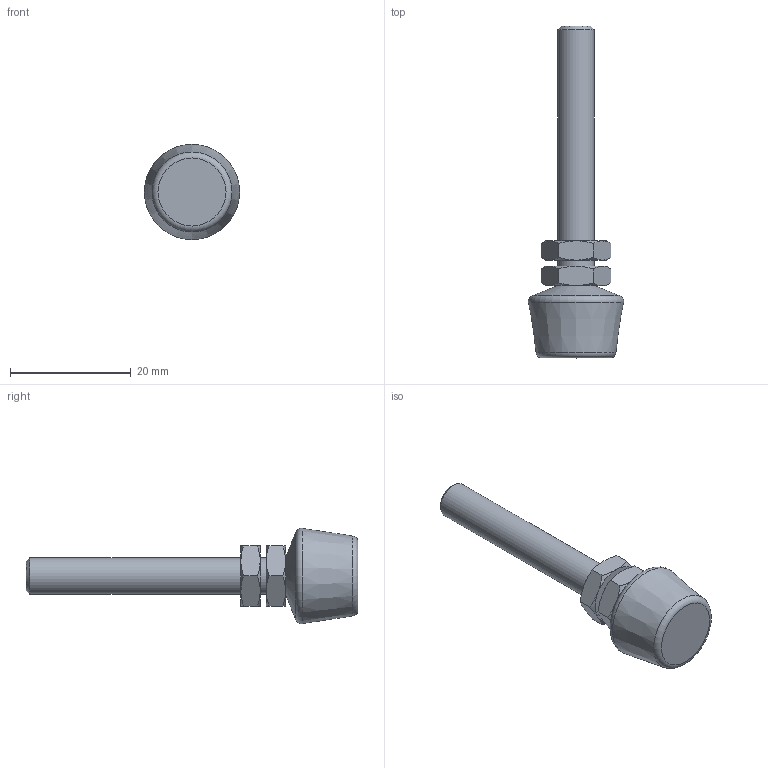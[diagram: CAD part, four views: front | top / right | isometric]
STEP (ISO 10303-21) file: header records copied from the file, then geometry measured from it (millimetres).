
FILE_DESCRIPTION( ( 'STEP AP203' ), '1' );
FILE_NAME( 'C:/Temp/Ganter_Step_05_03_2020/data/2_4/gn_708_1/gn_708_1_st/Clamping bolt GN 708.1-M6-55-A-ST (0).stp', '2020-03-13T05:51:05', ( 'License CC BY-ND 4.0' ), ( 'CADENAS' ), ' ', 'PARTsolutions', ' ' );
FILE_SCHEMA( ( 'CONFIG_CONTROL_DESIGN' ) );
Length unit declared in the file: millimetre
Products named in the file (3): Clamping bolt GN 708.1-M6-55-A-ST (0); _Andrueckschraube GN 708.1-M6-55-A-ST (0)-1; _Andrueckschraube GN 708.1-M6-55-A-ST2
Assembly tree (3 placements, depth 2):
  Clamping bolt GN 708.1-M6-55-A-ST (0)
    _Andrueckschraube GN 708.1-M6-55-A-ST (0)-1
    _Andrueckschraube GN 708.1-M6-55-A-ST2  x2
Bounding box: 15.78 x 55 x 15.78 mm (x, y, z)
Volume: 3479.4 mm3; surface area: 2142.4 mm2
Topology: 3 solids, 3 shells, 54 faces, 111 edges, 63 vertices
Faces by surface type: cone 31, plane 18, cylinder 3, torus 2
Full cylindrical faces by diameter (mm): 4.917 x2, 6 x1
Entity records: 938 total; most frequent: CARTESIAN_POINT 244, DIRECTION 122, ORIENTED_EDGE 106, AXIS2_PLACEMENT_3D 58, EDGE_CURVE 53, EDGE_LOOP 42, VERTEX_POINT 36, FACE_OUTER_BOUND 35
